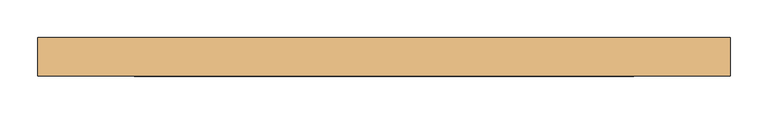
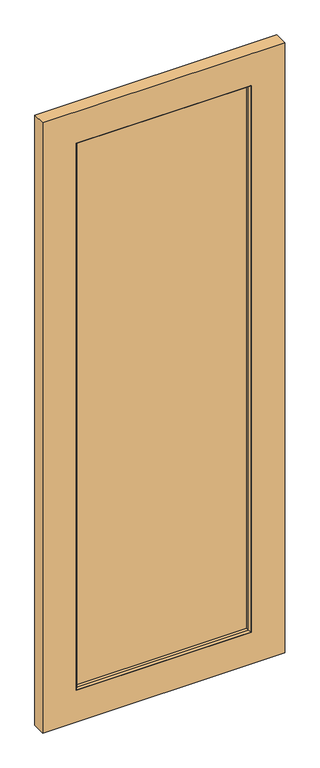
"""IFC4 building model written with IfcOpenShell, lengths in millimetres: door geometry, Planitar - Swap_Full Glass_Panel : Planitar - Swap_Full Glass_Panel."""

import ifcopenshell
import ifcopenshell.guid

model = None  # the IFC model being written
_history = None  # IfcOwnerHistory: only IFC2X3 demands one
_inside = {}  # id of a spatial element -> (the spatial element, [elements in it])
_under = {}  # id of a project, library or spatial element -> (it, [spatial elements below it])
_declared = {}  # id of a project -> (the project, [libraries it declares])
_typed = {}  # id of a type object -> (the type object, [elements of that type])
_made_of = {}  # id of a material, layer set ... -> (it, [elements and type objects made of it])


def new_model(schema):
    """Start an empty IFC model of exactly this schema.

    Asked for "IFC4X3", IfcOpenShell would pick the latest addendum, in which some entities
    have other attributes; the version numbers below select the first issue.
    IFC2X3 requires an IfcOwnerHistory on every rooted entity: one is made here for all.
    """
    global model, _history
    if schema == "IFC4X3":
        model = ifcopenshell.file(schema_version=(4, 3, 0, 0))
    else:
        model = ifcopenshell.file(schema=schema)
    _inside.clear()
    _under.clear()
    _declared.clear()
    _typed.clear()
    _made_of.clear()
    _history = None
    if model.schema == "IFC2X3":
        org = make("IfcOrganization", Name="unknown")
        user = make(
            "IfcPersonAndOrganization",
            ThePerson=make("IfcPerson", FamilyName="unknown"),
            TheOrganization=org,
        )
        app = make(
            "IfcApplication",
            ApplicationDeveloper=org,
            Version="unknown",
            ApplicationFullName="unknown",
            ApplicationIdentifier="unknown",
        )
        _history = make(
            "IfcOwnerHistory",
            OwningUser=user,
            OwningApplication=app,
            ChangeAction="ADDED",
            CreationDate=0,
        )
    return model


def make(cls, **values):
    """One entity of the class cls with the attributes given. An attribute that is None is left unset."""
    return model.create_entity(
        cls, **{name: value for name, value in values.items() if value is not None}
    )


def rooted(cls, **values):
    """An entity with a GlobalId (a new one), such as an element, a storey or a relation."""
    return make(cls, GlobalId=ifcopenshell.guid.new(), OwnerHistory=_history, **values)


def si_unit(unit_type, name, prefix=None):
    """IfcSIUnit, for example si_unit("LENGTHUNIT", "METRE", prefix="MILLI")."""
    return make("IfcSIUnit", UnitType=unit_type, Prefix=prefix, Name=name)


def assignment(units):
    """IfcUnitAssignment: the units of a project."""
    return None if units is None else make("IfcUnitAssignment", Units=units)


def point(xyz):
    """IfcCartesianPoint."""
    return None if xyz is None else make("IfcCartesianPoint", Coordinates=xyz)


def direction(xyz):
    """IfcDirection."""
    return None if xyz is None else make("IfcDirection", DirectionRatios=xyz)


def frame(location, z_axis=None, x_axis=None):
    """IfcAxis2Placement3D, a coordinate frame: its origin and axes. An axis left out is left unset."""
    return make(
        "IfcAxis2Placement3D",
        Location=point(location),
        Axis=direction(z_axis),
        RefDirection=direction(x_axis),
    )


def origin():
    """The frame at (0, 0, 0) with its axes left unset."""
    return frame((0.0, 0.0, 0.0))


def place(relative_to, where):
    """IfcLocalPlacement: puts the frame where relative to a parent placement (None: the world)."""
    return make(
        "IfcLocalPlacement", PlacementRelTo=relative_to, RelativePlacement=where
    )


def context(
    kind, dimensions, precision=None, world=None, true_north=None, identifier=None
):
    """IfcGeometricRepresentationContext, for example the 3D "Model" context."""
    return make(
        "IfcGeometricRepresentationContext",
        ContextIdentifier=identifier,
        ContextType=kind,
        CoordinateSpaceDimension=dimensions,
        Precision=precision,
        WorldCoordinateSystem=world,
        TrueNorth=true_north,
    )


def project(units=None, contexts=None):
    """IfcProject with its units and contexts."""
    return rooted(
        "IfcProject",
        Name="project",
        RepresentationContexts=contexts,
        UnitsInContext=assignment(units),
    )


def spatial(cls, under=None, at=None, **own):
    """A site, building, storey or space (cls), placed at a placement, below another one or the project."""
    s = rooted(cls, ObjectPlacement=at, **own)
    if under is not None:
        _under.setdefault(under.id(), (under, []))[1].append(s)
    return s


def polyline(points):
    """IfcPolyline through the points."""
    return make("IfcPolyline", Points=[point(p) for p in points])


def outline(outer, holes=None, kind="AREA"):
    """IfcArbitraryClosedProfileDef: a profile drawn as a closed curve; with holes, ...WithVoids."""
    if holes is None:
        return make("IfcArbitraryClosedProfileDef", ProfileType=kind, OuterCurve=outer)
    return make(
        "IfcArbitraryProfileDefWithVoids",
        ProfileType=kind,
        OuterCurve=outer,
        InnerCurves=holes,
    )


def extrude(swept, where, along, depth):
    """IfcExtrudedAreaSolid: the profile swept, set in the frame where, extruded along a direction by depth."""
    return make(
        "IfcExtrudedAreaSolid",
        SweptArea=swept,
        Position=where,
        ExtrudedDirection=direction(along),
        Depth=depth,
    )


def faces_of(points, faces, orient=None, outer=None):
    """IfcFace entities. A face is a list of loops; a loop is a list of indices into points, from 0.

    orient and outer hold one flag for each loop. By default every Orientation is true, the
    first loop of a face is its IfcFaceOuterBound and the others are IfcFaceBound.
    """
    made = []
    for i, loops in enumerate(faces):
        bounds = []
        for j, loop in enumerate(loops):
            is_outer = j == 0 if outer is None else outer[i][j]
            bounds.append(
                make(
                    "IfcFaceOuterBound" if is_outer else "IfcFaceBound",
                    Bound=make("IfcPolyLoop", Polygon=[points[k] for k in loop]),
                    Orientation=True if orient is None else orient[i][j],
                )
            )
        made.append(make("IfcFace", Bounds=bounds))
    return made


def faceted_brep(points, faces, orient=None, outer=None, voids=None):
    """IfcFacetedBrep: a solid bounded by flat faces; with voids (closed shells), ...WithVoids."""
    shared = [point(p) for p in points]
    hull = make("IfcClosedShell", CfsFaces=faces_of(shared, faces, orient, outer))
    if voids is None:
        return make("IfcFacetedBrep", Outer=hull)
    return make(
        "IfcFacetedBrepWithVoids",
        Outer=hull,
        Voids=[
            make(cls, CfsFaces=faces_of(shared, fs, o, b)) for cls, fs, o, b in voids
        ],
    )


def shape(context_of_items, identifier, shape_type, items):
    """IfcShapeRepresentation: the items that make up one representation, for example the "Body"."""
    return make(
        "IfcShapeRepresentation",
        ContextOfItems=context_of_items,
        RepresentationIdentifier=identifier,
        RepresentationType=shape_type,
        Items=items,
    )


def source(mapping_origin, context_of_items, identifier, shape_type, items):
    """IfcRepresentationMap: a shape defined once, which mapped items show again and again."""
    return make(
        "IfcRepresentationMap",
        MappingOrigin=mapping_origin,
        MappedRepresentation=shape(context_of_items, identifier, shape_type, items),
    )


def transform(
    local_origin,
    x_axis=None,
    y_axis=None,
    z_axis=None,
    scale=None,
    scale2=None,
    scale3=None,
    uniform=True,
):
    """IfcCartesianTransformationOperator3D, or its non-uniform kind. x_axis, y_axis, z_axis: its Axis1, 2, 3."""
    if uniform:
        return make(
            "IfcCartesianTransformationOperator3D",
            Axis1=direction(x_axis),
            Axis2=direction(y_axis),
            LocalOrigin=point(local_origin),
            Scale=scale,
            Axis3=direction(z_axis),
        )
    return make(
        "IfcCartesianTransformationOperator3DnonUniform",
        Axis1=direction(x_axis),
        Axis2=direction(y_axis),
        LocalOrigin=point(local_origin),
        Scale=scale,
        Axis3=direction(z_axis),
        Scale2=scale2,
        Scale3=scale3,
    )


def mapped(mapping_source, mapping_target):
    """IfcMappedItem: shows the shape of a source again, moved by a transform."""
    return make(
        "IfcMappedItem", MappingSource=mapping_source, MappingTarget=mapping_target
    )


def made_of(thing, what):
    """Note that an element or type object is made of a material, layer set ...; save() writes the relation."""
    if what is not None:
        _made_of.setdefault(what.id(), (what, []))[1].append(thing)
    return thing


def element(
    cls,
    number,
    at=None,
    inside=None,
    cuts=None,
    type_object=None,
    material=None,
    context=None,
    identifier="Body",
    shape_type=None,
    held_by="IfcProductDefinitionShape",
    body=None,
    shapes=None,
    **own,
):
    """One element of the class cls, such as IfcWall. Its Tag is "e" and its number.

    at: its placement. inside: the storey or other place that contains it. cuts: it is an
    opening in that element (IfcRelVoidsElement). A single representation is given by context,
    identifier, shape_type and body (its items); several are given by shapes. held_by: the class
    of the entity that holds the representations. save() writes the other relations.
    """
    e = rooted(cls, Tag="e%d" % number, ObjectPlacement=at, **own)
    if body is not None:
        shapes = [shape(context, identifier, shape_type, body)]
    if shapes is not None:
        e.Representation = make(held_by, Representations=shapes)
    if inside is not None:
        _inside.setdefault(inside.id(), (inside, []))[1].append(e)
    if cuts is not None:
        rooted(
            "IfcRelVoidsElement", RelatingBuildingElement=cuts, RelatedOpeningElement=e
        )
    if type_object is not None:
        _typed.setdefault(type_object.id(), (type_object, []))[1].append(e)
    return made_of(e, material)


def aggregate(whole, parts):
    """IfcRelAggregates: a whole, such as a stair, and the parts it consists of."""
    return rooted("IfcRelAggregates", RelatingObject=whole, RelatedObjects=parts)


def save(model, path):
    """Write the relations noted so far, then the file.

    IfcRelAggregates (storeys below a building ...), IfcRelContainedInSpatialStructure (elements
    in a storey), IfcRelDefinesByType, IfcRelAssociatesMaterial and IfcRelDeclares: one each for
    every whole, place, type object, material and project.
    """
    for whole, parts in _under.values():
        aggregate(whole, parts)
    for where, things in _inside.values():
        rooted(
            "IfcRelContainedInSpatialStructure",
            RelatedElements=things,
            RelatingStructure=where,
        )
    for kind, things in _typed.values():
        rooted("IfcRelDefinesByType", RelatedObjects=things, RelatingType=kind)
    for what, things in _made_of.values():
        rooted("IfcRelAssociatesMaterial", RelatedObjects=things, RelatingMaterial=what)
    for by, libraries in _declared.values():
        rooted("IfcRelDeclares", RelatingContext=by, RelatedDefinitions=libraries)
    model.write(path)


def door_6d8508cd(model_context):
    return source(origin(), model_context, "Body", "SolidModel", [
        extrude(outline(polyline([(2438.4, 457.2), (2438.4, -457.2), (0.0, -457.2), (0.0, 457.2), (2438.4, 457.2)]), holes=[polyline([(127.0, 330.2), (127.0, -330.2), (2311.4, -330.2), (2311.4, 330.2), (127.0, 330.2)])]), frame((0.0, -25.4, 0.0), z_axis=(0.0, 1.0, 0.0), x_axis=(0.0, 0.0, 1.0)), (0.0, 0.0, 1.0), 50.8),
        extrude(outline(polyline([(323.85, 6.35), (323.85, -6.35), (-323.85, -6.35), (-323.85, 6.35), (323.85, 6.35)])), frame((0.0, 0.0, 133.35), z_axis=(0.0, 0.0, 1.0), x_axis=(1.0, 0.0, 0.0)), (0.0, 0.0, 1.0), 2171.7),
        faceted_brep([(323.85, -19.05, 133.35), (-323.85, -19.05, 133.35), (-330.2, -25.4, 127.0), (330.2, -25.4, 127.0), (-323.85, -19.05, 2305.05), (-330.2, -25.4, 2311.4), (-330.2, 25.4, 2311.4), (-330.2, 25.4, 127.0), (-323.85, 19.05, 133.35), (-323.85, 19.05, 2305.05), (323.85, 19.05, 133.35), (330.2, 25.4, 127.0), (323.85, -19.05, 2305.05), (330.2, -25.4, 2311.4), (330.2, 25.4, 2311.4), (323.85, 19.05, 2305.05)], [[[0, 1, 2, 3]], [[1, 4, 5, 2]], [[2, 5, 6, 7]], [[1, 8, 9, 4]], [[7, 6, 9, 8]], [[10, 8, 1, 0]], [[11, 7, 8, 10]], [[3, 2, 7, 11]], [[12, 0, 3, 13]], [[13, 3, 11, 14]], [[15, 10, 0, 12]], [[14, 11, 10, 15]], [[4, 12, 13, 5]], [[9, 15, 12, 4]], [[6, 14, 15, 9]], [[5, 13, 14, 6]]]),
    ])


if __name__ == "__main__":
    model = new_model("IFC4")
    model_context = context("Model", 3, world=origin())
    ifc_project = project(units=[si_unit("LENGTHUNIT", "METRE", prefix="MILLI")], contexts=[model_context])
    site = spatial("IfcSite", under=ifc_project)
    building = spatial("IfcBuilding", under=site)
    placement = place(None, origin())
    door_shape = door_6d8508cd(model_context)
    element("IfcDoor", 1, ObjectType="Planitar - Swap_Full Glass_Panel : Planitar - Swap_Full Glass_Panel", at=placement, inside=building, context=model_context, shape_type="MappedRepresentation", body=[
        mapped(door_shape, transform((0.0, 0.0, 0.0), x_axis=(1.0, 0.0, 0.0), y_axis=(0.0, 1.0, 0.0), z_axis=(0.0, 0.0, 1.0))),
    ])
    save(model, "model.ifc")
